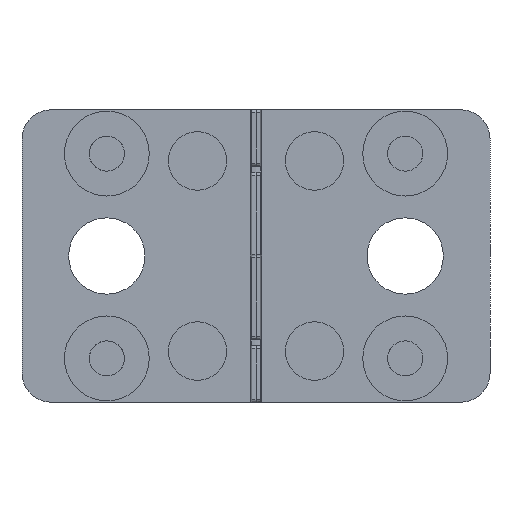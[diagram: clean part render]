
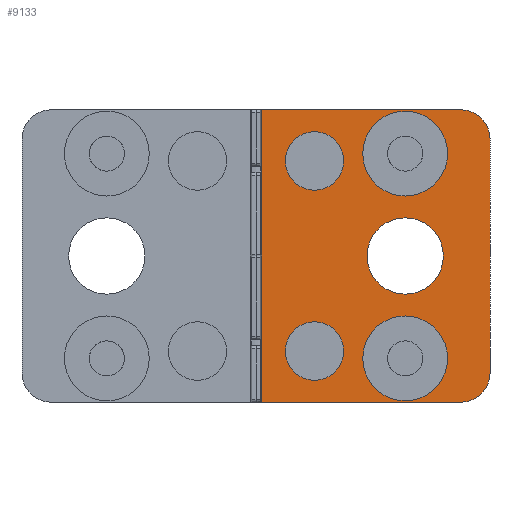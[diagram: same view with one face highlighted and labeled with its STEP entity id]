
A CAD part, front view. The second image highlights one B-rep face of the part: STEP entity #9133.
In plain terms, the highlighted planar face has unit normal (0, -1, 0).
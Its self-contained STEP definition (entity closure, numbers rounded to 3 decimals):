
#34 = DIRECTION ( 'NONE',  ( 1., 0., 0. ) ) ;
#48 = VERTEX_POINT ( 'NONE', #4883 ) ;
#88 = ORIENTED_EDGE ( 'NONE', *, *, #4582, .F. ) ;
#98 = CIRCLE ( 'NONE', #5183, 2. ) ;
#380 = ORIENTED_EDGE ( 'NONE', *, *, #3784, .F. ) ;
#398 = AXIS2_PLACEMENT_3D ( 'NONE', #4158, #7097, #6371 ) ;
#436 = CIRCLE ( 'NONE', #8759, 2.61 ) ;
#469 = EDGE_CURVE ( 'NONE', #3573, #5617, #7658, .T. ) ;
#536 = CARTESIAN_POINT ( 'NONE',  ( 4., -6., -6.5 ) ) ;
#551 = AXIS2_PLACEMENT_3D ( 'NONE', #9228, #3387, #6989 ) ;
#568 = CIRCLE ( 'NONE', #2885, 2.61 ) ;
#733 = ORIENTED_EDGE ( 'NONE', *, *, #9530, .F. ) ;
#742 = AXIS2_PLACEMENT_3D ( 'NONE', #5733, #2840, #9298 ) ;
#749 = AXIS2_PLACEMENT_3D ( 'NONE', #4483, #5889, #1585 ) ;
#781 = FACE_BOUND ( 'NONE', #6088, .T. ) ;
#829 = ORIENTED_EDGE ( 'NONE', *, *, #4623, .F. ) ;
#904 = VECTOR ( 'NONE', #2775, 1000. ) ;
#1095 = DIRECTION ( 'NONE',  ( 0., -1., 0. ) ) ;
#1117 = DIRECTION ( 'NONE',  ( 0., -1., 0. ) ) ;
#1211 = ORIENTED_EDGE ( 'NONE', *, *, #1650, .F. ) ;
#1237 = CIRCLE ( 'NONE', #4001, 2. ) ;
#1241 = ORIENTED_EDGE ( 'NONE', *, *, #3450, .F. ) ;
#1327 = CARTESIAN_POINT ( 'NONE',  ( 4., -6., -8.5 ) ) ;
#1411 = ORIENTED_EDGE ( 'NONE', *, *, #7846, .F. ) ;
#1519 = EDGE_CURVE ( 'NONE', #5141, #7137, #3801, .T. ) ;
#1534 = VERTEX_POINT ( 'NONE', #2694 ) ;
#1554 = ORIENTED_EDGE ( 'NONE', *, *, #469, .F. ) ;
#1585 = DIRECTION ( 'NONE',  ( 0., 0., 1. ) ) ;
#1609 = DIRECTION ( 'NONE',  ( 0., -1., 0. ) ) ;
#1639 = CIRCLE ( 'NONE', #8116, 2.9 ) ;
#1650 = EDGE_CURVE ( 'NONE', #3433, #2198, #436, .T. ) ;
#1669 = VERTEX_POINT ( 'NONE', #8269 ) ;
#1744 = VERTEX_POINT ( 'NONE', #1327 ) ;
#1920 = EDGE_LOOP ( 'NONE', ( #6558, #88 ) ) ;
#1962 = VECTOR ( 'NONE', #5104, 1000. ) ;
#1994 = AXIS2_PLACEMENT_3D ( 'NONE', #3463, #4858, #4234 ) ;
#2141 = CARTESIAN_POINT ( 'NONE',  ( 4., -6., -6.5 ) ) ;
#2198 = VERTEX_POINT ( 'NONE', #2670 ) ;
#2218 = EDGE_CURVE ( 'NONE', #3243, #2309, #9374, .T. ) ;
#2268 = EDGE_CURVE ( 'NONE', #4914, #1744, #6294, .T. ) ;
#2309 = VERTEX_POINT ( 'NONE', #2820 ) ;
#2345 = LINE ( 'NONE', #7306, #1962 ) ;
#2404 = AXIS2_PLACEMENT_3D ( 'NONE', #5413, #5364, #3142 ) ;
#2541 = DIRECTION ( 'NONE',  ( 0., 0., -1. ) ) ;
#2544 = CARTESIAN_POINT ( 'NONE',  ( 10.2, -6., 7. ) ) ;
#2559 = DIRECTION ( 'NONE',  ( 0., -1., 0. ) ) ;
#2670 = CARTESIAN_POINT ( 'NONE',  ( 10.2, -6., 2.61 ) ) ;
#2694 = CARTESIAN_POINT ( 'NONE',  ( 4., -6., 4.5 ) ) ;
#2766 = ORIENTED_EDGE ( 'NONE', *, *, #8472, .F. ) ;
#2775 = DIRECTION ( 'NONE',  ( 0., 0., -1. ) ) ;
#2820 = CARTESIAN_POINT ( 'NONE',  ( 16., -6., -8. ) ) ;
#2840 = DIRECTION ( 'NONE',  ( 0., -1., 0. ) ) ;
#2885 = AXIS2_PLACEMENT_3D ( 'NONE', #3065, #1609, #6769 ) ;
#3065 = CARTESIAN_POINT ( 'NONE',  ( 10.2, -6., 0. ) ) ;
#3080 = ORIENTED_EDGE ( 'NONE', *, *, #5621, .F. ) ;
#3142 = DIRECTION ( 'NONE',  ( 0., 0., -1. ) ) ;
#3243 = VERTEX_POINT ( 'NONE', #5175 ) ;
#3341 = VERTEX_POINT ( 'NONE', #8969 ) ;
#3387 = DIRECTION ( 'NONE',  ( 0., -1., 0. ) ) ;
#3433 = VERTEX_POINT ( 'NONE', #6368 ) ;
#3450 = EDGE_CURVE ( 'NONE', #1744, #4914, #1237, .T. ) ;
#3463 = CARTESIAN_POINT ( 'NONE',  ( 10.2, -6., -7. ) ) ;
#3573 = VERTEX_POINT ( 'NONE', #6655 ) ;
#3784 = EDGE_CURVE ( 'NONE', #5956, #1669, #6173, .T. ) ;
#3801 = CIRCLE ( 'NONE', #742, 2.9 ) ;
#3820 = CARTESIAN_POINT ( 'NONE',  ( 10.2, -6., -9.9 ) ) ;
#3870 = DIRECTION ( 'NONE',  ( 0., 0., 1. ) ) ;
#3887 = PLANE ( 'NONE',  #749 ) ;
#3904 = ORIENTED_EDGE ( 'NONE', *, *, #1519, .F. ) ;
#3986 = AXIS2_PLACEMENT_3D ( 'NONE', #2141, #6660, #5899 ) ;
#4001 = AXIS2_PLACEMENT_3D ( 'NONE', #536, #1117, #6415 ) ;
#4021 = CARTESIAN_POINT ( 'NONE',  ( 4., -6., 6.5 ) ) ;
#4036 = EDGE_CURVE ( 'NONE', #48, #1534, #98, .T. ) ;
#4040 = ORIENTED_EDGE ( 'NONE', *, *, #5402, .F. ) ;
#4158 = CARTESIAN_POINT ( 'NONE',  ( 14., -6., 8. ) ) ;
#4168 = ORIENTED_EDGE ( 'NONE', *, *, #4414, .F. ) ;
#4234 = DIRECTION ( 'NONE',  ( 0., 0., 1. ) ) ;
#4387 = ORIENTED_EDGE ( 'NONE', *, *, #2268, .F. ) ;
#4414 = EDGE_CURVE ( 'NONE', #2309, #3341, #6847, .T. ) ;
#4483 = CARTESIAN_POINT ( 'NONE',  ( 0.405, -6., 10. ) ) ;
#4514 = LINE ( 'NONE', #6010, #8756 ) ;
#4582 = EDGE_CURVE ( 'NONE', #1534, #48, #8719, .T. ) ;
#4619 = FACE_BOUND ( 'NONE', #6030, .T. ) ;
#4623 = EDGE_CURVE ( 'NONE', #5858, #3243, #6700, .T. ) ;
#4748 = AXIS2_PLACEMENT_3D ( 'NONE', #9123, #2559, #5493 ) ;
#4858 = DIRECTION ( 'NONE',  ( 0., -1., 0. ) ) ;
#4883 = CARTESIAN_POINT ( 'NONE',  ( 4., -6., 8.5 ) ) ;
#4914 = VERTEX_POINT ( 'NONE', #6741 ) ;
#5104 = DIRECTION ( 'NONE',  ( -1., 0., 0. ) ) ;
#5141 = VERTEX_POINT ( 'NONE', #9451 ) ;
#5175 = CARTESIAN_POINT ( 'NONE',  ( 16., -6., 8. ) ) ;
#5183 = AXIS2_PLACEMENT_3D ( 'NONE', #4021, #6953, #3870 ) ;
#5364 = DIRECTION ( 'NONE',  ( 0., 1., 0. ) ) ;
#5402 = EDGE_CURVE ( 'NONE', #7137, #5141, #1639, .T. ) ;
#5413 = CARTESIAN_POINT ( 'NONE',  ( 14., -6., -8. ) ) ;
#5493 = DIRECTION ( 'NONE',  ( 0., 0., 1. ) ) ;
#5605 = CARTESIAN_POINT ( 'NONE',  ( 16., -6., 10. ) ) ;
#5617 = VERTEX_POINT ( 'NONE', #3820 ) ;
#5621 = EDGE_CURVE ( 'NONE', #2198, #3433, #568, .T. ) ;
#5680 = CIRCLE ( 'NONE', #4748, 2.9 ) ;
#5733 = CARTESIAN_POINT ( 'NONE',  ( 10.2, -6., 7. ) ) ;
#5744 = EDGE_LOOP ( 'NONE', ( #1211, #3080 ) ) ;
#5853 = VECTOR ( 'NONE', #9120, 1000. ) ;
#5858 = VERTEX_POINT ( 'NONE', #7523 ) ;
#5889 = DIRECTION ( 'NONE',  ( 0., 1., 0. ) ) ;
#5899 = DIRECTION ( 'NONE',  ( 0., 0., 1. ) ) ;
#5940 = CARTESIAN_POINT ( 'NONE',  ( 0.405, -6., -10. ) ) ;
#5956 = VERTEX_POINT ( 'NONE', #5940 ) ;
#6010 = CARTESIAN_POINT ( 'NONE',  ( 0.405, -6., 10. ) ) ;
#6030 = EDGE_LOOP ( 'NONE', ( #4387, #1241 ) ) ;
#6065 = FACE_BOUND ( 'NONE', #5744, .T. ) ;
#6071 = CARTESIAN_POINT ( 'NONE',  ( 0.405, -6., 10. ) ) ;
#6088 = EDGE_LOOP ( 'NONE', ( #4040, #3904 ) ) ;
#6173 = LINE ( 'NONE', #6071, #5853 ) ;
#6294 = CIRCLE ( 'NONE', #3986, 2. ) ;
#6301 = DIRECTION ( 'NONE',  ( 0., 0., 1. ) ) ;
#6368 = CARTESIAN_POINT ( 'NONE',  ( 10.2, -6., -2.61 ) ) ;
#6371 = DIRECTION ( 'NONE',  ( 0., 0., 1. ) ) ;
#6415 = DIRECTION ( 'NONE',  ( 0., 0., 1. ) ) ;
#6558 = ORIENTED_EDGE ( 'NONE', *, *, #4036, .F. ) ;
#6655 = CARTESIAN_POINT ( 'NONE',  ( 10.2, -6., -4.1 ) ) ;
#6660 = DIRECTION ( 'NONE',  ( 0., -1., 0. ) ) ;
#6700 = CIRCLE ( 'NONE', #398, 2. ) ;
#6741 = CARTESIAN_POINT ( 'NONE',  ( 4., -6., -4.5 ) ) ;
#6769 = DIRECTION ( 'NONE',  ( 0., 0., -1. ) ) ;
#6847 = CIRCLE ( 'NONE', #2404, 2. ) ;
#6953 = DIRECTION ( 'NONE',  ( 0., -1., 0. ) ) ;
#6989 = DIRECTION ( 'NONE',  ( 0., 0., 1. ) ) ;
#7097 = DIRECTION ( 'NONE',  ( 0., 1., 0. ) ) ;
#7137 = VERTEX_POINT ( 'NONE', #9270 ) ;
#7306 = CARTESIAN_POINT ( 'NONE',  ( 0.405, -6., -10. ) ) ;
#7523 = CARTESIAN_POINT ( 'NONE',  ( 14., -6., 10. ) ) ;
#7640 = CARTESIAN_POINT ( 'NONE',  ( 10.2, -6., 0. ) ) ;
#7658 = CIRCLE ( 'NONE', #1994, 2.9 ) ;
#7697 = DIRECTION ( 'NONE',  ( 0., -1., 0. ) ) ;
#7846 = EDGE_CURVE ( 'NONE', #5617, #3573, #5680, .T. ) ;
#8102 = FACE_BOUND ( 'NONE', #1920, .T. ) ;
#8116 = AXIS2_PLACEMENT_3D ( 'NONE', #2544, #1095, #6301 ) ;
#8269 = CARTESIAN_POINT ( 'NONE',  ( 0.405, -6., 10. ) ) ;
#8316 = ORIENTED_EDGE ( 'NONE', *, *, #2218, .F. ) ;
#8472 = EDGE_CURVE ( 'NONE', #3341, #5956, #2345, .T. ) ;
#8719 = CIRCLE ( 'NONE', #551, 2. ) ;
#8756 = VECTOR ( 'NONE', #34, 1000. ) ;
#8759 = AXIS2_PLACEMENT_3D ( 'NONE', #7640, #7697, #2541 ) ;
#8832 = EDGE_LOOP ( 'NONE', ( #829, #733, #380, #2766, #4168, #8316 ) ) ;
#8915 = FACE_BOUND ( 'NONE', #8999, .T. ) ;
#8969 = CARTESIAN_POINT ( 'NONE',  ( 14., -6., -10. ) ) ;
#8999 = EDGE_LOOP ( 'NONE', ( #1554, #1411 ) ) ;
#9002 = FACE_OUTER_BOUND ( 'NONE', #8832, .T. ) ;
#9120 = DIRECTION ( 'NONE',  ( 0., 0., 1. ) ) ;
#9123 = CARTESIAN_POINT ( 'NONE',  ( 10.2, -6., -7. ) ) ;
#9133 = ADVANCED_FACE ( 'NONE', ( #6065, #781, #8102, #4619, #9002, #8915 ), #3887, .F. ) ;
#9228 = CARTESIAN_POINT ( 'NONE',  ( 4., -6., 6.5 ) ) ;
#9270 = CARTESIAN_POINT ( 'NONE',  ( 10.2, -6., 9.9 ) ) ;
#9298 = DIRECTION ( 'NONE',  ( 0., 0., 1. ) ) ;
#9374 = LINE ( 'NONE', #5605, #904 ) ;
#9451 = CARTESIAN_POINT ( 'NONE',  ( 10.2, -6., 4.1 ) ) ;
#9530 = EDGE_CURVE ( 'NONE', #1669, #5858, #4514, .T. ) ;
